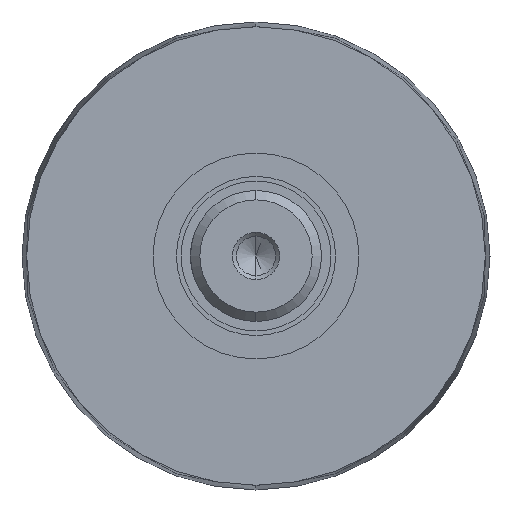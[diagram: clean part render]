
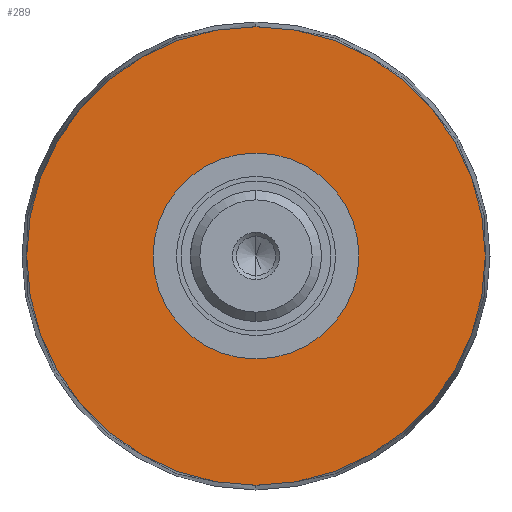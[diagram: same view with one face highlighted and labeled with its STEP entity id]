
A CAD part, left-side view. The second image highlights one B-rep face of the part: STEP entity #289.
In plain terms, the highlighted planar face has unit normal (-1, 0, 0).
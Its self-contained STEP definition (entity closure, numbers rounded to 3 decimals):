
#133 = VERTEX_POINT ( 'NONE', #562 ) ;
#134 = VERTEX_POINT ( 'NONE', #561 ) ;
#139 = EDGE_CURVE ( 'NONE', #133, #134, #566, .T. ) ;
#216 = VERTEX_POINT ( 'NONE', #735 ) ;
#217 = VERTEX_POINT ( 'NONE', #742 ) ;
#227 = EDGE_CURVE ( 'NONE', #216, #217, #789, .T. ) ;
#229 = ORIENTED_EDGE ( 'NONE', *, *, #231, .T. ) ;
#231 = EDGE_CURVE ( 'NONE', #217, #216, #728, .T. ) ;
#284 = ORIENTED_EDGE ( 'NONE', *, *, #139, .F. ) ;
#288 = EDGE_LOOP ( 'NONE', ( #229, #292 ) ) ;
#289 = ADVANCED_FACE ( 'NONE', ( #870, #868 ), #879, .F. ) ;
#290 = EDGE_CURVE ( 'NONE', #134, #133, #873, .T. ) ;
#291 = EDGE_LOOP ( 'NONE', ( #284, #293 ) ) ;
#292 = ORIENTED_EDGE ( 'NONE', *, *, #227, .T. ) ;
#293 = ORIENTED_EDGE ( 'NONE', *, *, #290, .F. ) ;
#554 = DIRECTION ( 'NONE',  ( 0., 0., 1. ) ) ;
#555 = DIRECTION ( 'NONE',  ( -1., 0., 0. ) ) ;
#558 = AXIS2_PLACEMENT_3D ( 'NONE', #559, #555, #554 ) ;
#559 = CARTESIAN_POINT ( 'NONE',  ( 99.5, 0., 0. ) ) ;
#561 = CARTESIAN_POINT ( 'NONE',  ( 99.5, 0., -11. ) ) ;
#562 = CARTESIAN_POINT ( 'NONE',  ( 99.5, 0., 11. ) ) ;
#566 = CIRCLE ( 'NONE', #558, 11. ) ;
#728 = CIRCLE ( 'NONE', #779, 24.5 ) ;
#735 = CARTESIAN_POINT ( 'NONE',  ( 99.5, 0., 24.5 ) ) ;
#742 = CARTESIAN_POINT ( 'NONE',  ( 99.5, 0., -24.5 ) ) ;
#776 = DIRECTION ( 'NONE',  ( 0., 0., 1. ) ) ;
#777 = DIRECTION ( 'NONE',  ( -1., 0., 0. ) ) ;
#778 = CARTESIAN_POINT ( 'NONE',  ( 99.5, 0., 0. ) ) ;
#779 = AXIS2_PLACEMENT_3D ( 'NONE', #778, #777, #776 ) ;
#783 = DIRECTION ( 'NONE',  ( 0., 0., 1. ) ) ;
#784 = DIRECTION ( 'NONE',  ( -1., 0., 0. ) ) ;
#785 = CARTESIAN_POINT ( 'NONE',  ( 99.5, 0., 0. ) ) ;
#786 = AXIS2_PLACEMENT_3D ( 'NONE', #785, #784, #783 ) ;
#789 = CIRCLE ( 'NONE', #786, 24.5 ) ;
#858 = DIRECTION ( 'NONE',  ( 0., 0., 1. ) ) ;
#859 = DIRECTION ( 'NONE',  ( -1., 0., 0. ) ) ;
#860 = CARTESIAN_POINT ( 'NONE',  ( 99.5, 0., 0. ) ) ;
#861 = AXIS2_PLACEMENT_3D ( 'NONE', #860, #859, #858 ) ;
#863 = DIRECTION ( 'NONE',  ( 0., 0., -1. ) ) ;
#864 = DIRECTION ( 'NONE',  ( 1., 0., 0. ) ) ;
#865 = CARTESIAN_POINT ( 'NONE',  ( 99.5, 24.5, 0. ) ) ;
#867 = AXIS2_PLACEMENT_3D ( 'NONE', #865, #864, #863 ) ;
#868 = FACE_OUTER_BOUND ( 'NONE', #288, .T. ) ;
#870 = FACE_BOUND ( 'NONE', #291, .T. ) ;
#873 = CIRCLE ( 'NONE', #861, 11. ) ;
#879 = PLANE ( 'NONE',  #867 ) ;
